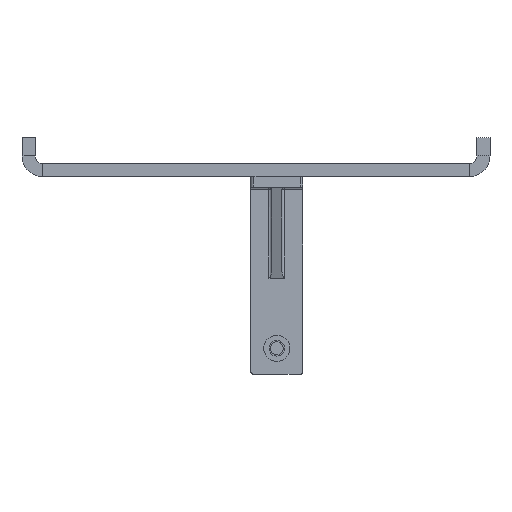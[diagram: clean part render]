
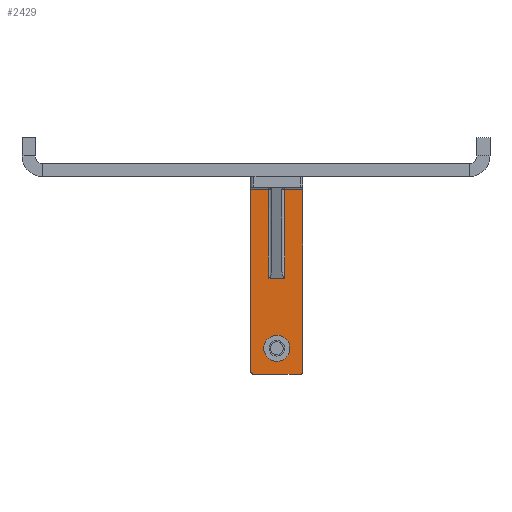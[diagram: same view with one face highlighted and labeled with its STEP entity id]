
A CAD part, left-side view. The second image highlights one B-rep face of the part: STEP entity #2429.
In plain terms, the highlighted planar face has unit normal (-1, 0, 0).
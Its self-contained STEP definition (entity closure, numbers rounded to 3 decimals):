
#1876=AXIS2_PLACEMENT_3D('Circle Axis2P3D',#1874,#1875,$) ;
#1911=AXIS2_PLACEMENT_3D('Circle Axis2P3D',#1909,#1910,$) ;
#2283=AXIS2_PLACEMENT_3D('Circle Axis2P3D',#2281,#2282,$) ;
#2394=AXIS2_PLACEMENT_3D('Plane Axis2P3D',#2391,#2392,#2393) ;
#2410=AXIS2_PLACEMENT_3D('Circle Axis2P3D',#2408,#2409,$) ;
#1874=CARTESIAN_POINT('Axis2P3D Location',(22.005,10.,-64.484)) ;
#1878=CARTESIAN_POINT('Vertex',(22.005,6.9,-64.484)) ;
#1880=CARTESIAN_POINT('Vertex',(22.005,13.1,-64.484)) ;
#1909=CARTESIAN_POINT('Axis2P3D Location',(22.005,10.,-64.484)) ;
#1967=CARTESIAN_POINT('Vertex',(22.005,13.,-3.484)) ;
#1970=CARTESIAN_POINT('Line Origine',(22.005,13.,-38.484)) ;
#1974=CARTESIAN_POINT('Vertex',(22.005,13.,-37.484)) ;
#2060=CARTESIAN_POINT('Vertex',(22.005,20.,-3.484)) ;
#2065=CARTESIAN_POINT('Line Origine',(22.005,10.,-3.484)) ;
#2087=CARTESIAN_POINT('Line Origine',(22.005,10.,-37.484)) ;
#2091=CARTESIAN_POINT('Vertex',(22.005,7.,-37.484)) ;
#2190=CARTESIAN_POINT('Vertex',(22.005,7.,-3.484)) ;
#2193=CARTESIAN_POINT('Line Origine',(22.005,7.,-38.484)) ;
#2256=CARTESIAN_POINT('Vertex',(22.005,0.,-3.484)) ;
#2264=CARTESIAN_POINT('Line Origine',(22.005,10.,-3.484)) ;
#2281=CARTESIAN_POINT('Axis2P3D Location',(22.005,1.,-73.484)) ;
#2285=CARTESIAN_POINT('Vertex',(22.005,0.,-73.484)) ;
#2287=CARTESIAN_POINT('Vertex',(22.005,1.,-74.484)) ;
#2328=CARTESIAN_POINT('Line Origine',(22.005,10.,-74.484)) ;
#2332=CARTESIAN_POINT('Vertex',(22.005,19.,-74.484)) ;
#2391=CARTESIAN_POINT('Axis2P3D Location',(22.005,0.,-74.484)) ;
#2396=CARTESIAN_POINT('Line Origine',(22.005,0.,-38.484)) ;
#2401=CARTESIAN_POINT('Line Origine',(22.005,20.,-38.484)) ;
#2405=CARTESIAN_POINT('Vertex',(22.005,20.,-73.484)) ;
#2408=CARTESIAN_POINT('Axis2P3D Location',(22.005,19.,-73.484)) ;
#1875=DIRECTION('Axis2P3D Direction',(1.,0.,-0.)) ;
#1910=DIRECTION('Axis2P3D Direction',(1.,0.,-0.)) ;
#1971=DIRECTION('Vector Direction',(0.,0.,1.)) ;
#2066=DIRECTION('Vector Direction',(0.,1.,0.)) ;
#2088=DIRECTION('Vector Direction',(0.,-1.,0.)) ;
#2194=DIRECTION('Vector Direction',(0.,0.,1.)) ;
#2265=DIRECTION('Vector Direction',(0.,-1.,0.)) ;
#2282=DIRECTION('Axis2P3D Direction',(-1.,0.,0.)) ;
#2329=DIRECTION('Vector Direction',(0.,1.,0.)) ;
#2392=DIRECTION('Axis2P3D Direction',(-1.,0.,0.)) ;
#2393=DIRECTION('Axis2P3D XDirection',(0.,0.,1.)) ;
#2397=DIRECTION('Vector Direction',(0.,0.,1.)) ;
#2402=DIRECTION('Vector Direction',(0.,0.,1.)) ;
#2409=DIRECTION('Axis2P3D Direction',(-1.,0.,0.)) ;
#1972=VECTOR('Line Direction',#1971,1.) ;
#2067=VECTOR('Line Direction',#2066,1.) ;
#2089=VECTOR('Line Direction',#2088,1.) ;
#2195=VECTOR('Line Direction',#2194,1.) ;
#2266=VECTOR('Line Direction',#2265,1.) ;
#2330=VECTOR('Line Direction',#2329,1.) ;
#2398=VECTOR('Line Direction',#2397,1.) ;
#2403=VECTOR('Line Direction',#2402,1.) ;
#2414=ORIENTED_EDGE('',*,*,#2334,.F.) ;
#2415=ORIENTED_EDGE('',*,*,#2289,.F.) ;
#2416=ORIENTED_EDGE('',*,*,#2400,.T.) ;
#2417=ORIENTED_EDGE('',*,*,#2268,.T.) ;
#2418=ORIENTED_EDGE('',*,*,#2197,.F.) ;
#2419=ORIENTED_EDGE('',*,*,#2093,.T.) ;
#2420=ORIENTED_EDGE('',*,*,#1976,.T.) ;
#2421=ORIENTED_EDGE('',*,*,#2069,.F.) ;
#2422=ORIENTED_EDGE('',*,*,#2407,.F.) ;
#2423=ORIENTED_EDGE('',*,*,#2412,.F.) ;
#2426=ORIENTED_EDGE('',*,*,#1913,.F.) ;
#2427=ORIENTED_EDGE('',*,*,#1882,.F.) ;
#2428=FACE_BOUND('',#2425,.T.) ;
#2429=ADVANCED_FACE('\X2\96F64EF651E04F554F53\X0\',(#2424,#2428),#2395,.T.) ;
#1877=CIRCLE('generated circle',#1876,3.1) ;
#1912=CIRCLE('generated circle',#1911,3.1) ;
#2284=CIRCLE('generated circle',#2283,1.) ;
#2411=CIRCLE('generated circle',#2410,1.) ;
#1882=EDGE_CURVE('',#1879,#1881,#1877,.F.) ;
#1913=EDGE_CURVE('',#1881,#1879,#1912,.F.) ;
#1976=EDGE_CURVE('',#1975,#1968,#1973,.T.) ;
#2069=EDGE_CURVE('',#2061,#1968,#2068,.F.) ;
#2093=EDGE_CURVE('',#2092,#1975,#2090,.F.) ;
#2197=EDGE_CURVE('',#2092,#2191,#2196,.T.) ;
#2268=EDGE_CURVE('',#2257,#2191,#2267,.F.) ;
#2289=EDGE_CURVE('',#2286,#2288,#2284,.F.) ;
#2334=EDGE_CURVE('',#2288,#2333,#2331,.T.) ;
#2400=EDGE_CURVE('',#2286,#2257,#2399,.T.) ;
#2407=EDGE_CURVE('',#2406,#2061,#2404,.T.) ;
#2412=EDGE_CURVE('',#2333,#2406,#2411,.F.) ;
#2413=EDGE_LOOP('',(#2414,#2415,#2416,#2417,#2418,#2419,#2420,#2421,#2422,#2423)) ;
#2425=EDGE_LOOP('',(#2426,#2427)) ;
#2424=FACE_OUTER_BOUND('',#2413,.T.) ;
#1973=LINE('Line',#1970,#1972) ;
#2068=LINE('Line',#2065,#2067) ;
#2090=LINE('Line',#2087,#2089) ;
#2196=LINE('Line',#2193,#2195) ;
#2267=LINE('Line',#2264,#2266) ;
#2331=LINE('Line',#2328,#2330) ;
#2399=LINE('Line',#2396,#2398) ;
#2404=LINE('Line',#2401,#2403) ;
#2395=PLANE('Plane',#2394) ;
#1879=VERTEX_POINT('',#1878) ;
#1881=VERTEX_POINT('',#1880) ;
#1968=VERTEX_POINT('',#1967) ;
#1975=VERTEX_POINT('',#1974) ;
#2061=VERTEX_POINT('',#2060) ;
#2092=VERTEX_POINT('',#2091) ;
#2191=VERTEX_POINT('',#2190) ;
#2257=VERTEX_POINT('',#2256) ;
#2286=VERTEX_POINT('',#2285) ;
#2288=VERTEX_POINT('',#2287) ;
#2333=VERTEX_POINT('',#2332) ;
#2406=VERTEX_POINT('',#2405) ;
